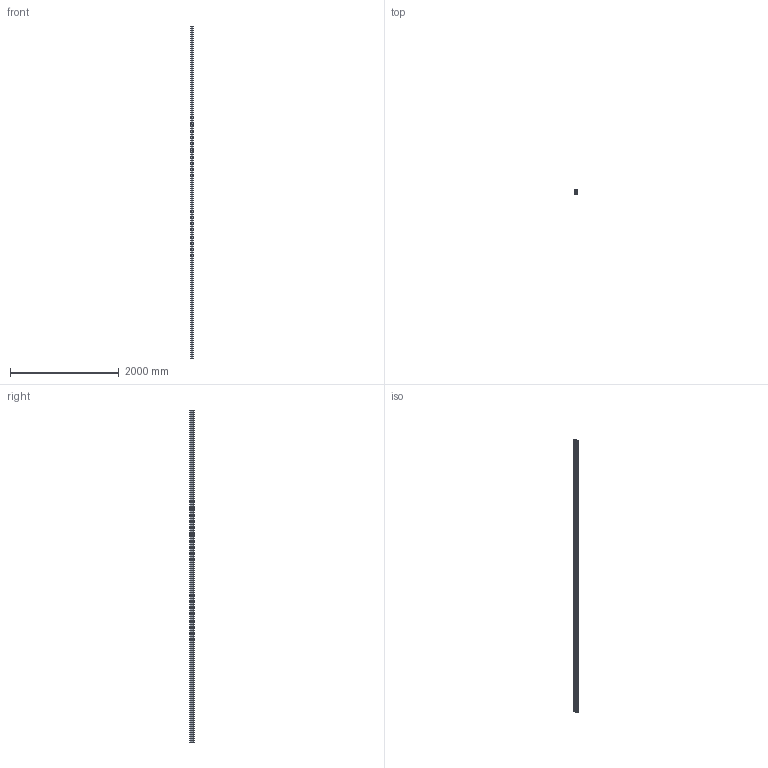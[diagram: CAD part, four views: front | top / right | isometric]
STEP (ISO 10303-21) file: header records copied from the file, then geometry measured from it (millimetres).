
FILE_DESCRIPTION (( 'STEP AP203' ), '1' );
FILE_NAME ('45 x 90 mm.STEP', '2012-06-08T15:44:20', ( '' ), ( '' ), 'SwSTEP 2.0', 'SolidWorks 2010', '' );
FILE_SCHEMA (( 'CONFIG_CONTROL_DESIGN' ));
Length unit declared in the file: inch
Products named in the file (1): 45 x 90 mm
Bounding box: 45 x 90 x 6100 mm (x, y, z)
Volume: 5791008.1 mm3; surface area: 6032724.5 mm2
Topology: 1 solids, 1 shells, 438 faces, 1308 edges, 872 vertices
Faces by surface type: cylinder 256, plane 182
Entity records: 15031 total; most frequent: DIRECTION 2698, CARTESIAN_POINT 2619, ORIENTED_EDGE 2616, EDGE_CURVE 1308, AXIS2_PLACEMENT_3D 951, VERTEX_POINT 872, VECTOR 796, LINE 796
